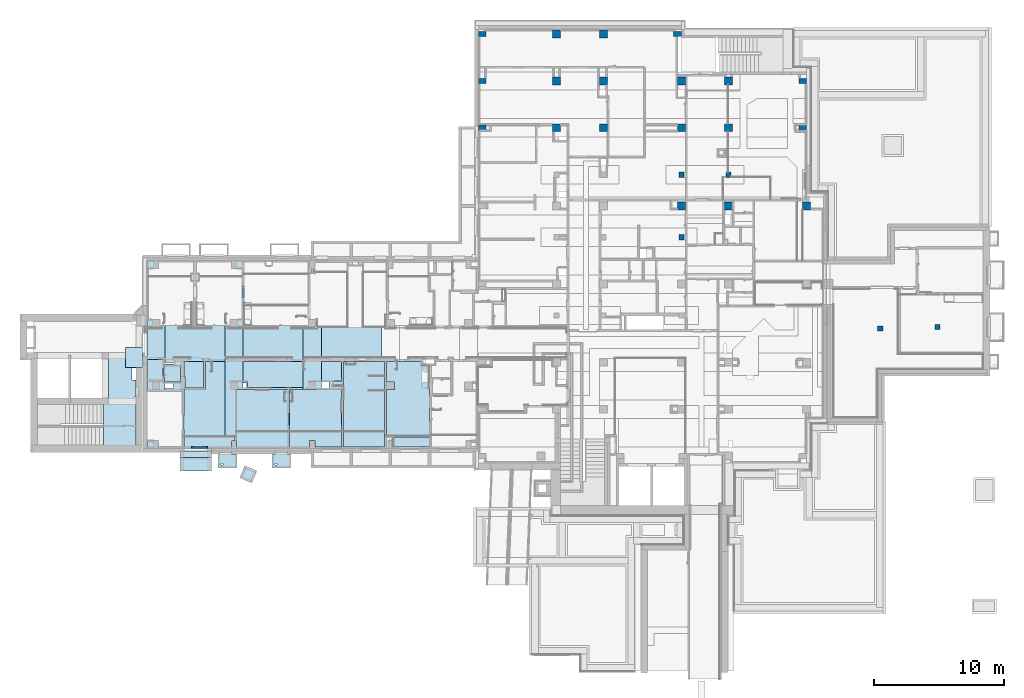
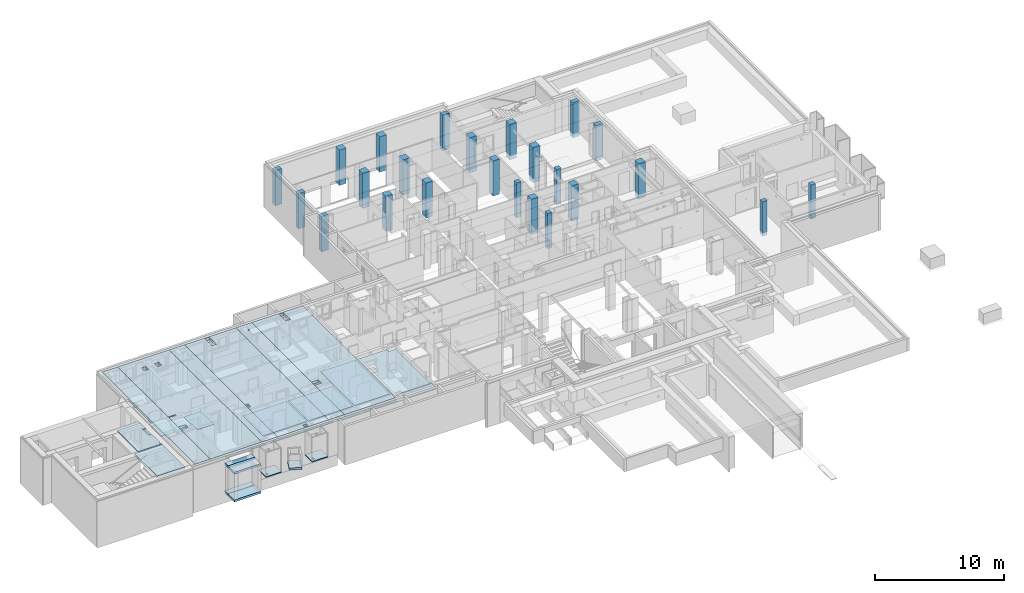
# One storey, part 4 of 84: 29 slabs, 24 columns, 1 beam, 12 openings.
"""IFC4 building model written with IfcOpenShell, lengths in metres."""

import ifcopenshell
import ifcopenshell.guid

model = None  # the IFC model being written
_history = None  # IfcOwnerHistory: only IFC2X3 demands one
_inside = {}  # id of a spatial element -> (the spatial element, [elements in it])
_under = {}  # id of a project, library or spatial element -> (it, [spatial elements below it])
_declared = {}  # id of a project -> (the project, [libraries it declares])
_typed = {}  # id of a type object -> (the type object, [elements of that type])
_made_of = {}  # id of a material, layer set ... -> (it, [elements and type objects made of it])


def new_model(schema):
    """Start an empty IFC model of exactly this schema.

    Asked for "IFC4X3", IfcOpenShell would pick the latest addendum, in which some entities
    have other attributes; the version numbers below select the first issue.
    IFC2X3 requires an IfcOwnerHistory on every rooted entity: one is made here for all.
    """
    global model, _history
    if schema == "IFC4X3":
        model = ifcopenshell.file(schema_version=(4, 3, 0, 0))
    else:
        model = ifcopenshell.file(schema=schema)
    _inside.clear()
    _under.clear()
    _declared.clear()
    _typed.clear()
    _made_of.clear()
    _history = None
    if model.schema == "IFC2X3":
        org = make("IfcOrganization", Name="unknown")
        user = make(
            "IfcPersonAndOrganization",
            ThePerson=make("IfcPerson", FamilyName="unknown"),
            TheOrganization=org,
        )
        app = make(
            "IfcApplication",
            ApplicationDeveloper=org,
            Version="unknown",
            ApplicationFullName="unknown",
            ApplicationIdentifier="unknown",
        )
        _history = make(
            "IfcOwnerHistory",
            OwningUser=user,
            OwningApplication=app,
            ChangeAction="ADDED",
            CreationDate=0,
        )
    return model


def make(cls, **values):
    """One entity of the class cls with the attributes given. An attribute that is None is left unset."""
    return model.create_entity(
        cls, **{name: value for name, value in values.items() if value is not None}
    )


def entity(cls, *values):
    """Any entity or typed value of the class cls, its attributes in the order of the schema. None: left unset."""
    e = model.create_entity(cls)
    for i, value in enumerate(values):
        if value is not None:
            e[i] = value
    return e


def rooted(cls, **values):
    """An entity with a GlobalId (a new one), such as an element, a storey or a relation."""
    return make(cls, GlobalId=ifcopenshell.guid.new(), OwnerHistory=_history, **values)


def si_unit(unit_type, name, prefix=None):
    """IfcSIUnit, for example si_unit("LENGTHUNIT", "METRE", prefix="MILLI")."""
    return make("IfcSIUnit", UnitType=unit_type, Prefix=prefix, Name=name)


def converted_unit(unit_type, name, factor, base, dimensions=None, offset=None):
    """IfcConversionBasedUnit, such as the inch: factor (a typed value) times the base unit."""
    return make(
        "IfcConversionBasedUnit"
        if offset is None
        else "IfcConversionBasedUnitWithOffset",
        ConversionOffset=offset,
        Dimensions=None
        if dimensions is None
        else entity("IfcDimensionalExponents", *dimensions),
        UnitType=unit_type,
        Name=name,
        ConversionFactor=make(
            "IfcMeasureWithUnit", ValueComponent=factor, UnitComponent=base
        ),
    )


def derived_unit(unit_type, elements):
    """IfcDerivedUnit: a product of units, each with its exponent."""
    return make(
        "IfcDerivedUnit",
        Elements=[
            make("IfcDerivedUnitElement", Unit=unit, Exponent=power)
            for unit, power in elements
        ],
        UnitType=unit_type,
    )


def assignment(units):
    """IfcUnitAssignment: the units of a project."""
    return None if units is None else make("IfcUnitAssignment", Units=units)


def point(xyz):
    """IfcCartesianPoint."""
    return None if xyz is None else make("IfcCartesianPoint", Coordinates=xyz)


def direction(xyz):
    """IfcDirection."""
    return None if xyz is None else make("IfcDirection", DirectionRatios=xyz)


def frame(location, z_axis=None, x_axis=None):
    """IfcAxis2Placement3D, a coordinate frame: its origin and axes. An axis left out is left unset."""
    return make(
        "IfcAxis2Placement3D",
        Location=point(location),
        Axis=direction(z_axis),
        RefDirection=direction(x_axis),
    )


def frame_2d(location, x_axis=None):
    """IfcAxis2Placement2D, a coordinate frame in the plane: its origin and x axis."""
    return make(
        "IfcAxis2Placement2D", Location=point(location), RefDirection=direction(x_axis)
    )


def origin():
    """The frame at (0, 0, 0) with its axes left unset."""
    return frame((0.0, 0.0, 0.0))


def origin_with_axes():
    """The frame at (0, 0, 0) with the z axis (0, 0, 1) and the x axis (1, 0, 0) written out."""
    return frame((0.0, 0.0, 0.0), z_axis=(0.0, 0.0, 1.0), x_axis=(1.0, 0.0, 0.0))


def place(relative_to, where):
    """IfcLocalPlacement: puts the frame where relative to a parent placement (None: the world)."""
    return make(
        "IfcLocalPlacement", PlacementRelTo=relative_to, RelativePlacement=where
    )


def context(
    kind, dimensions, precision=None, world=None, true_north=None, identifier=None
):
    """IfcGeometricRepresentationContext, for example the 3D "Model" context."""
    return make(
        "IfcGeometricRepresentationContext",
        ContextIdentifier=identifier,
        ContextType=kind,
        CoordinateSpaceDimension=dimensions,
        Precision=precision,
        WorldCoordinateSystem=world,
        TrueNorth=true_north,
    )


def subcontext(parent, identifier, kind, view, scale=None):
    """IfcGeometricRepresentationSubContext, for example "Body" below "Model"."""
    return make(
        "IfcGeometricRepresentationSubContext",
        ContextIdentifier=identifier,
        ContextType=kind,
        ParentContext=parent,
        TargetScale=scale,
        TargetView=view,
    )


def project(units=None, contexts=None):
    """IfcProject with its units and contexts."""
    return rooted(
        "IfcProject",
        Name="project",
        RepresentationContexts=contexts,
        UnitsInContext=assignment(units),
    )


def spatial(cls, under=None, at=None, **own):
    """A site, building, storey or space (cls), placed at a placement, below another one or the project."""
    s = rooted(cls, ObjectPlacement=at, **own)
    if under is not None:
        _under.setdefault(under.id(), (under, []))[1].append(s)
    return s


def polyline(points):
    """IfcPolyline through the points."""
    return make("IfcPolyline", Points=[point(p) for p in points])


def profile(cls, at=None, kind="AREA", **sizes):
    """A parametric profile (cls). Its sizes go by their IFC names, for example OverallWidth=200.0."""
    return make(cls, ProfileType=kind, Position=at, **sizes)


def rectangle(**sizes):
    """IfcRectangleProfileDef."""
    return profile("IfcRectangleProfileDef", **sizes)


def circle(**sizes):
    """IfcCircleProfileDef."""
    return profile("IfcCircleProfileDef", **sizes)


def outline(outer, holes=None, kind="AREA"):
    """IfcArbitraryClosedProfileDef: a profile drawn as a closed curve; with holes, ...WithVoids."""
    if holes is None:
        return make("IfcArbitraryClosedProfileDef", ProfileType=kind, OuterCurve=outer)
    return make(
        "IfcArbitraryProfileDefWithVoids",
        ProfileType=kind,
        OuterCurve=outer,
        InnerCurves=holes,
    )


def extrude(swept, where, along, depth):
    """IfcExtrudedAreaSolid: the profile swept, set in the frame where, extruded along a direction by depth."""
    return make(
        "IfcExtrudedAreaSolid",
        SweptArea=swept,
        Position=where,
        ExtrudedDirection=direction(along),
        Depth=depth,
    )


def shape(context_of_items, identifier, shape_type, items):
    """IfcShapeRepresentation: the items that make up one representation, for example the "Body"."""
    return make(
        "IfcShapeRepresentation",
        ContextOfItems=context_of_items,
        RepresentationIdentifier=identifier,
        RepresentationType=shape_type,
        Items=items,
    )


def material(Name=None, Category=None):
    """IfcMaterial."""
    return make("IfcMaterial", Name=Name, Category=Category)


def made_of(thing, what):
    """Note that an element or type object is made of a material, layer set ...; save() writes the relation."""
    if what is not None:
        _made_of.setdefault(what.id(), (what, []))[1].append(thing)
    return thing


def element(
    cls,
    number,
    at=None,
    inside=None,
    cuts=None,
    type_object=None,
    material=None,
    context=None,
    identifier="Body",
    shape_type=None,
    held_by="IfcProductDefinitionShape",
    body=None,
    shapes=None,
    **own,
):
    """One element of the class cls, such as IfcWall. Its Tag is "e" and its number.

    at: its placement. inside: the storey or other place that contains it. cuts: it is an
    opening in that element (IfcRelVoidsElement). A single representation is given by context,
    identifier, shape_type and body (its items); several are given by shapes. held_by: the class
    of the entity that holds the representations. save() writes the other relations.
    """
    e = rooted(cls, Tag="e%d" % number, ObjectPlacement=at, **own)
    if body is not None:
        shapes = [shape(context, identifier, shape_type, body)]
    if shapes is not None:
        e.Representation = make(held_by, Representations=shapes)
    if inside is not None:
        _inside.setdefault(inside.id(), (inside, []))[1].append(e)
    if cuts is not None:
        rooted(
            "IfcRelVoidsElement", RelatingBuildingElement=cuts, RelatedOpeningElement=e
        )
    if type_object is not None:
        _typed.setdefault(type_object.id(), (type_object, []))[1].append(e)
    return made_of(e, material)


def aggregate(whole, parts):
    """IfcRelAggregates: a whole, such as a stair, and the parts it consists of."""
    return rooted("IfcRelAggregates", RelatingObject=whole, RelatedObjects=parts)


def save(model, path):
    """Write the relations noted so far, then the file.

    IfcRelAggregates (storeys below a building ...), IfcRelContainedInSpatialStructure (elements
    in a storey), IfcRelDefinesByType, IfcRelAssociatesMaterial and IfcRelDeclares: one each for
    every whole, place, type object, material and project.
    """
    for whole, parts in _under.values():
        aggregate(whole, parts)
    for where, things in _inside.values():
        rooted(
            "IfcRelContainedInSpatialStructure",
            RelatedElements=things,
            RelatingStructure=where,
        )
    for kind, things in _typed.values():
        rooted("IfcRelDefinesByType", RelatedObjects=things, RelatingType=kind)
    for what, things in _made_of.values():
        rooted("IfcRelAssociatesMaterial", RelatedObjects=things, RelatingMaterial=what)
    for by, libraries in _declared.values():
        rooted("IfcRelDeclares", RelatingContext=by, RelatedDefinitions=libraries)
    model.write(path)


model = new_model("IFC4")

# Units and contexts
model_context = context("Model", 3, precision=1e-05, world=origin())
body_context = subcontext(model_context, "Body", "Model", "MODEL_VIEW")
ifc_project = project(units=[si_unit("LENGTHUNIT", "METRE"), si_unit("AREAUNIT", "SQUARE_METRE"), si_unit("VOLUMEUNIT", "CUBIC_METRE"), si_unit("MASSUNIT", "GRAM", prefix="KILO"), converted_unit("PLANEANGLEUNIT", "DEGREE", entity("IfcPlaneAngleMeasure", 0.0174532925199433), si_unit("PLANEANGLEUNIT", "RADIAN"), dimensions=[0, 0, 0, 0, 0, 0, 0]), derived_unit("THERMALTRANSMITTANCEUNIT", [(si_unit("POWERUNIT", "WATT"), 1), (si_unit("THERMODYNAMICTEMPERATUREUNIT", "KELVIN"), -1), (si_unit("LENGTHUNIT", "METRE"), -2)]), derived_unit("VOLUMETRICFLOWRATEUNIT", [(si_unit("LENGTHUNIT", "METRE"), 3), (converted_unit("TIMEUNIT", "hour", entity("IfcTimeMeasure", 3600.0), si_unit("TIMEUNIT", "SECOND"), dimensions=[0, 0, 1, 0, 0, 0, 0]), -1), (si_unit("LENGTHUNIT", "METRE"), -1)])], contexts=[model_context])

# Site, building, storey
site_placement = place(None, origin())
site = spatial("IfcSite", under=ifc_project, at=site_placement, Name="3. ASŘ", CompositionType="ELEMENT")
building_placement = place(site_placement, origin())
building = spatial("IfcBuilding", under=site, at=building_placement, Name="Pavilon C", CompositionType="ELEMENT")
storey_placement = place(building_placement, frame((0.0, 0.0, -3.3)))
storey = spatial("IfcBuildingStorey", under=building, at=storey_placement, Name="Půdorys 1.PP", CompositionType="ELEMENT", Elevation=-3.3)

# Columns
ifc_material_1 = material(Name="ZELEZOBETONOVÁ KCE")
column_1_placement = place(storey_placement, frame((44.15, 21.8, -0.4)))
element("IfcColumn", 1, at=column_1_placement, inside=storey, material=ifc_material_1, PredefinedType="COLUMN", context=body_context, shape_type="SweptSolid", body=[
    extrude(rectangle(XDim=0.4, YDim=0.4, at=frame_2d((-0.2, -0.2), x_axis=(-1.0, 0.0))), origin_with_axes(), (0.0, 0.0, 1.0), 3.35),
])
ifc_material_2 = material(Name="ZELEZOBETONOVÁ KCE")
column_2_placement = place(storey_placement, frame((44.25, 25.5, -0.4)))
element("IfcColumn", 2, at=column_2_placement, inside=storey, material=ifc_material_2, PredefinedType="COLUMN", context=body_context, shape_type="SweptSolid", body=[
    extrude(rectangle(XDim=0.6, YDim=0.6, at=frame_2d((-0.3, -0.3), x_axis=(-1.0, 0.0))), origin_with_axes(), (0.0, 0.0, 1.0), 3.35),
])
ifc_material_3 = material(Name="ZELEZOBETONOVÁ KCE")
column_3_placement = place(storey_placement, frame((34.65, 25.5, -0.4)))
element("IfcColumn", 3, at=column_3_placement, inside=storey, material=ifc_material_3, PredefinedType="COLUMN", context=body_context, shape_type="SweptSolid", body=[
    extrude(rectangle(XDim=0.6, YDim=0.6, at=frame_2d((-0.3, -0.3), x_axis=(-1.0, 0.0))), origin_with_axes(), (0.0, 0.0, 1.0), 3.35),
])
ifc_material_4 = material(Name="ZELEZOBETONOVÁ KCE")
column_4_placement = place(storey_placement, frame((31.05, 29.1, -0.4)))
element("IfcColumn", 4, at=column_4_placement, inside=storey, material=ifc_material_4, PredefinedType="COLUMN", context=body_context, shape_type="SweptSolid", body=[
    extrude(rectangle(XDim=0.6, YDim=0.6, at=frame_2d((-0.3, -0.3), x_axis=(-1.0, 0.0))), origin_with_axes(), (0.0, 0.0, 1.0), 3.35),
])
ifc_material_5 = material(Name="ZELEZOBETONOVÁ KCE")
column_5_placement = place(storey_placement, frame((34.65, 32.7, -0.4)))
element("IfcColumn", 5, at=column_5_placement, inside=storey, material=ifc_material_5, PredefinedType="COLUMN", context=body_context, shape_type="SweptSolid", body=[
    extrude(rectangle(XDim=0.6, YDim=0.6, at=frame_2d((-0.3, -0.3), x_axis=(-1.0, 0.0))), origin_with_axes(), (0.0, 0.0, 1.0), 3.35),
])
ifc_material_6 = material(Name="ZELEZOBETONOVÁ KCE")
column_6_placement = place(storey_placement, frame((44.25, 29.1, -0.4)))
element("IfcColumn", 6, at=column_6_placement, inside=storey, material=ifc_material_6, PredefinedType="COLUMN", context=body_context, shape_type="SweptSolid", body=[
    extrude(rectangle(XDim=0.6, YDim=0.6, at=frame_2d((-0.3, -0.3), x_axis=(-1.0, 0.0))), origin_with_axes(), (0.0, 0.0, 1.0), 3.35),
])
ifc_material_7 = material(Name="ZELEZOBETONOVÁ KCE")
column_7_placement = place(storey_placement, frame((40.35, 32.6, -0.4)))
element("IfcColumn", 7, at=column_7_placement, inside=storey, material=ifc_material_7, PredefinedType="COLUMN", context=body_context, shape_type="SweptSolid", body=[
    extrude(rectangle(XDim=0.599999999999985, YDim=0.4, at=frame_2d((-0.299999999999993, -0.2), x_axis=(-1.0, 0.0))), origin_with_axes(), (0.0, 0.0, 1.0), 3.35),
])
ifc_material_8 = material(Name="ZELEZOBETONOVÁ KCE")
column_8_placement = place(storey_placement, frame((44.25, 19.5, -0.4)))
element("IfcColumn", 8, at=column_8_placement, inside=storey, material=ifc_material_8, PredefinedType="COLUMN", context=body_context, shape_type="SweptSolid", body=[
    extrude(rectangle(XDim=0.6, YDim=0.6, at=frame_2d((-0.3, -0.3), x_axis=(-1.0, 0.0))), origin_with_axes(), (0.0, 0.0, 1.0), 3.35),
])
ifc_material_9 = material(Name="ZELEZOBETONOVÁ KCE")
column_9_placement = place(storey_placement, frame((40.55, 17.0, -0.4)))
element("IfcColumn", 9, at=column_9_placement, inside=storey, material=ifc_material_9, PredefinedType="COLUMN", context=body_context, shape_type="SweptSolid", body=[
    extrude(rectangle(XDim=0.4, YDim=0.4, at=frame_2d((-0.2, -0.2), x_axis=(-1.0, 0.0))), origin_with_axes(), (0.0, 0.0, 1.0), 3.35),
])
ifc_material_10 = material(Name="ZELEZOBETONOVÁ KCE")
column_10_placement = place(storey_placement, frame((40.65, 19.5, -0.4)))
element("IfcColumn", 10, at=column_10_placement, inside=storey, material=ifc_material_10, PredefinedType="COLUMN", context=body_context, shape_type="SweptSolid", body=[
    extrude(rectangle(XDim=0.6, YDim=0.6, at=frame_2d((-0.3, -0.3), x_axis=(-1.0, 0.0))), origin_with_axes(), (0.0, 0.0, 1.0), 3.35),
])
ifc_material_11 = material(Name="ZELEZOBETONOVÁ KCE")
column_11_placement = place(storey_placement, frame((40.65, 29.1, -0.4)))
element("IfcColumn", 11, at=column_11_placement, inside=storey, material=ifc_material_11, PredefinedType="COLUMN", context=body_context, shape_type="SweptSolid", body=[
    extrude(rectangle(XDim=0.6, YDim=0.6, at=frame_2d((-0.3, -0.3), x_axis=(-1.0, 0.0))), origin_with_axes(), (0.0, 0.0, 1.0), 3.35),
])
ifc_material_12 = material(Name="ZELEZOBETONOVÁ KCE")
column_12_placement = place(storey_placement, frame((40.55, 21.8, -0.4)))
element("IfcColumn", 12, at=column_12_placement, inside=storey, material=ifc_material_12, PredefinedType="COLUMN", context=body_context, shape_type="SweptSolid", body=[
    extrude(rectangle(XDim=0.4, YDim=0.4, at=frame_2d((-0.2, -0.2), x_axis=(-1.0, 0.0))), origin_with_axes(), (0.0, 0.0, 1.0), 3.35),
])
ifc_material_13 = material(Name="ZELEZOBETONOVÁ KCE")
column_13_placement = place(storey_placement, frame((50.25, 19.5, -0.4)))
element("IfcColumn", 13, at=column_13_placement, inside=storey, material=ifc_material_13, PredefinedType="COLUMN", context=body_context, shape_type="SweptSolid", body=[
    extrude(rectangle(XDim=0.6, YDim=0.6, at=frame_2d((-0.3, -0.3), x_axis=(-1.0, 0.0))), origin_with_axes(), (0.0, 0.0, 1.0), 3.35),
])
ifc_material_14 = material(Name="ZELEZOBETONOVÁ KCE")
column_14_placement = place(storey_placement, frame((40.65, 25.5, -0.4)))
element("IfcColumn", 14, at=column_14_placement, inside=storey, material=ifc_material_14, PredefinedType="COLUMN", context=body_context, shape_type="SweptSolid", body=[
    extrude(rectangle(XDim=0.6, YDim=0.6, at=frame_2d((-0.3, -0.3), x_axis=(-1.0, 0.0))), origin_with_axes(), (0.0, 0.0, 1.0), 3.35),
])
ifc_material_15 = material(Name="ZELEZOBETONOVÁ KCE")
column_15_placement = place(storey_placement, frame((34.65, 29.1, -0.4)))
element("IfcColumn", 15, at=column_15_placement, inside=storey, material=ifc_material_15, PredefinedType="COLUMN", context=body_context, shape_type="SweptSolid", body=[
    extrude(rectangle(XDim=0.6, YDim=0.6, at=frame_2d((-0.3, -0.3), x_axis=(-1.0, 0.0))), origin_with_axes(), (0.0, 0.0, 1.0), 3.35),
])
ifc_material_16 = material(Name="ZELEZOBETONOVÁ KCE")
column_16_placement = place(storey_placement, frame((31.05, 25.5, -0.4)))
element("IfcColumn", 16, at=column_16_placement, inside=storey, material=ifc_material_16, PredefinedType="COLUMN", context=body_context, shape_type="SweptSolid", body=[
    extrude(rectangle(XDim=0.6, YDim=0.6, at=frame_2d((-0.3, -0.3), x_axis=(-1.0, 0.0))), origin_with_axes(), (0.0, 0.0, 1.0), 3.35),
])
ifc_material_17 = material(Name="ZELEZOBETONOVÁ KCE")
column_17_placement = place(storey_placement, frame((25.35, 25.4, -0.4)))
element("IfcColumn", 17, at=column_17_placement, inside=storey, material=ifc_material_17, PredefinedType="COLUMN", context=body_context, shape_type="SweptSolid", body=[
    extrude(rectangle(XDim=0.599999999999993, YDim=0.4, at=frame_2d((-0.299999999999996, -0.2), x_axis=(-1.0, 0.0))), origin_with_axes(), (0.0, 0.0, 1.0), 3.35),
])
ifc_material_18 = material(Name="ZELEZOBETONOVÁ KCE")
column_18_placement = place(storey_placement, frame((25.35, 29.0, -0.4)))
element("IfcColumn", 18, at=column_18_placement, inside=storey, material=ifc_material_18, PredefinedType="COLUMN", context=body_context, shape_type="SweptSolid", body=[
    extrude(rectangle(XDim=0.599999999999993, YDim=0.4, at=frame_2d((-0.299999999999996, -0.2), x_axis=(-1.0, 0.0))), origin_with_axes(), (0.0, 0.0, 1.0), 3.35),
])
ifc_material_19 = material(Name="ZELEZOBETONOVÁ KCE")
column_19_placement = place(storey_placement, frame((25.35, 32.6, -0.4)))
element("IfcColumn", 19, at=column_19_placement, inside=storey, material=ifc_material_19, PredefinedType="COLUMN", context=body_context, shape_type="SweptSolid", body=[
    extrude(rectangle(XDim=0.599999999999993, YDim=0.4, at=frame_2d((-0.299999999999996, -0.2), x_axis=(-1.0, 0.0))), origin_with_axes(), (0.0, 0.0, 1.0), 3.35),
])
ifc_material_20 = material(Name="ZELEZOBETONOVÁ KCE")
column_20_placement = place(storey_placement, frame((31.05, 32.7, -0.4)))
element("IfcColumn", 20, at=column_20_placement, inside=storey, material=ifc_material_20, PredefinedType="COLUMN", context=body_context, shape_type="SweptSolid", body=[
    extrude(rectangle(XDim=0.6, YDim=0.6, at=frame_2d((-0.3, -0.3), x_axis=(-1.0, 0.0))), origin_with_axes(), (0.0, 0.0, 1.0), 3.35),
])
ifc_material_21 = material(Name="ZELEZOBETONOVÁ KCE")
column_21_placement = place(storey_placement, frame((49.95, 25.4, -0.4)))
element("IfcColumn", 21, at=column_21_placement, inside=storey, material=ifc_material_21, PredefinedType="COLUMN", context=body_context, shape_type="SweptSolid", body=[
    extrude(rectangle(XDim=0.6, YDim=0.4, at=frame_2d((-0.3, -0.2), x_axis=(-1.0, 0.0))), origin_with_axes(), (0.0, 0.0, 1.0), 3.35),
])
ifc_material_22 = material(Name="ZELEZOBETONOVÁ KCE")
column_22_placement = place(storey_placement, frame((49.95, 29.0, -0.4)))
element("IfcColumn", 22, at=column_22_placement, inside=storey, material=ifc_material_22, PredefinedType="COLUMN", context=body_context, shape_type="SweptSolid", body=[
    extrude(rectangle(XDim=0.6, YDim=0.4, at=frame_2d((-0.3, -0.2), x_axis=(-1.0, 0.0))), origin_with_axes(), (0.0, 0.0, 1.0), 3.35),
])
ifc_material_23 = material(Name="ZELEZOBETONOVÁ KCE")
column_23_placement = place(storey_placement, frame((55.4, 9.59999999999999, -0.3)))
element("IfcColumn", 23, at=column_23_placement, inside=storey, material=ifc_material_23, PredefinedType="COLUMN", context=body_context, shape_type="SweptSolid", body=[
    extrude(rectangle(XDim=0.4, YDim=0.4, at=frame_2d((0.2, 0.2), x_axis=(1.0, 0.0))), origin_with_axes(), (0.0, 0.0, 1.0), 3.25),
])
ifc_material_24 = material(Name="ZELEZOBETONOVÁ KCE")
column_24_placement = place(storey_placement, frame((59.8, 9.69999999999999, -0.3)))
element("IfcColumn", 24, at=column_24_placement, inside=storey, material=ifc_material_24, PredefinedType="COLUMN", context=body_context, shape_type="SweptSolid", body=[
    extrude(rectangle(XDim=0.4, YDim=0.4, at=frame_2d((0.2, 0.2), x_axis=(1.0, 0.0))), origin_with_axes(), (0.0, 0.0, 1.0), 3.25),
])

# Beam
ifc_material_25 = material(Name="PY1a - NEP 100-1250")
beam_placement = place(storey_placement, frame((2.725, 0.600000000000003, 2.02), z_axis=(0.0, 0.0, 1.0), x_axis=(1.0, -1.81898940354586e-16, 0.0)))
element("IfcBeam", 25, at=beam_placement, inside=storey, material=ifc_material_25, Name="%K0PY1a", PredefinedType="NOTDEFINED", context=body_context, shape_type="SweptSolid", body=[
    extrude(rectangle(XDim=0.1, YDim=0.249, at=frame_2d((0.05, 0.1245), x_axis=(1.0, 0.0))), frame((0.0, 0.0, 0.0), z_axis=(1.0, 0.0, 0.0), x_axis=(0.0, 1.0, 0.0)), (0.0, 0.0, 1.0), 1.25),
])

# Slabs
ifc_material_26 = material(Name="ZELEZOBETONOVÁ KCE")
slab_1_placement = place(storey_placement, frame((1.85, -1.125, 2.4)))
element("IfcSlab", 26, at=slab_1_placement, inside=storey, material=ifc_material_26, PredefinedType="FLOOR", context=body_context, shape_type="SweptSolid", body=[
    extrude(rectangle(XDim=1.0, YDim=2.4, at=frame_2d((1.2, -0.5), x_axis=(0.0, -1.0))), frame((0.0, 1.0, 0.0), z_axis=(0.0, 0.0, 1.0), x_axis=(1.0, 0.0, 0.0)), (0.0, 0.0, 1.0), 0.18),
])
ifc_material_27 = material(Name="ZELEZOBETONOVÁ KCE")
slab_2_placement = place(storey_placement, frame((1.85, -1.125, -0.23)))
element("IfcSlab", 27, at=slab_2_placement, inside=storey, material=ifc_material_27, PredefinedType="FLOOR", context=body_context, shape_type="SweptSolid", body=[
    extrude(rectangle(XDim=1.0, YDim=2.4, at=frame_2d((1.2, -0.5), x_axis=(0.0, -1.0))), frame((0.0, 1.0, 0.0), z_axis=(0.0, 0.0, 1.0), x_axis=(1.0, 0.0, 0.0)), (0.0, 0.0, 1.0), 0.18),
])
ifc_material_28 = material(Name="ZELEZOBETONOVÁ KCE")
slab_3_placement = place(storey_placement, frame((6.44426722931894, -2.05359455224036, 1.5)))
element("IfcSlab", 28, at=slab_3_placement, inside=storey, material=ifc_material_28, PredefinedType="FLOOR", context=body_context, shape_type="SweptSolid", body=[
    extrude(rectangle(XDim=0.999999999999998, YDim=1.0, at=frame_2d((0.271326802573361, -0.65297914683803), x_axis=(-0.381652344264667, -0.924305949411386))), frame((0.381652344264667, 1.30595829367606, 0.0), z_axis=(0.0, 0.0, 1.0), x_axis=(1.0, 0.0, 0.0)), (0.0, 0.0, 1.0), 0.2),
])
ifc_material_29 = material(Name="ZELEZOBETONOVÁ KCE")
slab_4_placement = place(storey_placement, frame((1.85, -0.124999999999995, -0.23)))
element("IfcSlab", 29, at=slab_4_placement, inside=storey, material=ifc_material_29, PredefinedType="FLOOR", context=body_context, shape_type="SweptSolid", body=[
    extrude(rectangle(XDim=0.525, YDim=2.4, at=frame_2d((1.2, -0.2625), x_axis=(0.0, -1.0))), frame((0.0, 0.525, 0.0), z_axis=(0.0, 0.0, 1.0), x_axis=(1.0, 0.0, 0.0)), (0.0, 0.0, 1.0), 0.18),
])
ifc_material_30 = material(Name="ZELEZOBETONOVÁ KCE")
slab_5_placement = place(storey_placement, frame((1.85, -0.124999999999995, 2.4)))
element("IfcSlab", 30, at=slab_5_placement, inside=storey, material=ifc_material_30, PredefinedType="FLOOR", context=body_context, shape_type="SweptSolid", body=[
    extrude(rectangle(XDim=0.525, YDim=2.4, at=frame_2d((1.2, -0.2625), x_axis=(0.0, -1.0))), frame((0.0, 0.525, 0.0), z_axis=(0.0, 0.0, 1.0), x_axis=(1.0, 0.0, 0.0)), (0.0, 0.0, 1.0), 0.18),
])
ifc_material_31 = material(Name="PZD")
slab_6_placement = place(storey_placement, frame((-4.0249, 0.700000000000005, 2.93)))
element("IfcSlab", 31, at=slab_6_placement, inside=storey, material=ifc_material_31, PredefinedType="FLOOR", context=body_context, shape_type="SweptSolid", body=[
    extrude(rectangle(XDim=2.4999, YDim=3.5, at=frame_2d((1.24995, 1.75), x_axis=(1.0, 0.0))), origin_with_axes(), (0.0, 0.0, 1.0), 0.25),
])

# Slab, openings
ifc_material_32 = material(Name="PZD")
slab_7_placement = place(storey_placement, frame((0.700000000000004, 0.600000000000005, 2.95)))
slab_7 = element("IfcSlab", 32, at=slab_7_placement, inside=storey, material=ifc_material_32, PredefinedType="FLOOR", context=body_context, shape_type="SweptSolid", body=[
    extrude(rectangle(XDim=14.4, YDim=4.60000000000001, at=frame_2d((2.3, -7.2), x_axis=(-1.01054966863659e-15, -1.0))), frame((1.45519152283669e-14, 14.4, 0.0), z_axis=(0.0, 0.0, 1.0), x_axis=(1.0, 0.0, 0.0)), (0.0, 0.0, 1.0), 0.25),
])
opening_1_placement = place(slab_7_placement, frame((1.45519152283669e-14, 4.6, 0.0)))
element("IfcOpeningElement", 33, at=opening_1_placement, cuts=slab_7, Name="Prostup deskou", ObjectType="Opening", context=body_context, shape_type="SweptSolid", body=[
    extrude(rectangle(XDim=0.4, YDim=0.65, at=frame_2d((0.0, 0.0), x_axis=(0.0, -1.0))), frame((0.325, 0.2, 0.0), z_axis=(0.0, 0.0, 1.0), x_axis=(1.0, 0.0, 0.0)), (0.0, 0.0, 1.0), 0.25),
])
opening_2_placement = place(slab_7_placement, frame((2.67500000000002, 12.905, 0.0)))
element("IfcOpeningElement", 34, at=opening_2_placement, cuts=slab_7, Name="Prostup deskou", ObjectType="Opening", context=body_context, shape_type="SweptSolid", body=[
    extrude(rectangle(XDim=0.45, YDim=0.4, at=frame_2d((0.0, 0.0), x_axis=(0.0, -1.0))), frame((0.2, 0.225, 0.0), z_axis=(0.0, 0.0, 1.0), x_axis=(1.0, 0.0, 0.0)), (0.0, 0.0, 1.0), 0.25),
])
opening_3_placement = place(slab_7_placement, frame((1.52500000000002, 12.905, 0.0)))
element("IfcOpeningElement", 35, at=opening_3_placement, cuts=slab_7, Name="Prostup deskou", ObjectType="Opening", context=body_context, shape_type="SweptSolid", body=[
    extrude(rectangle(XDim=0.45, YDim=0.4, at=frame_2d((0.0, 0.0), x_axis=(0.0, -1.0))), frame((0.2, 0.225, 0.0), z_axis=(0.0, 0.0, 1.0), x_axis=(1.0, 0.0, 0.0)), (0.0, 0.0, 1.0), 0.25),
])
opening_4_placement = place(slab_7_placement, frame((1.45519152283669e-14, 6.475, 0.0)))
element("IfcOpeningElement", 36, at=opening_4_placement, cuts=slab_7, Name="Prostup deskou", ObjectType="Opening", context=body_context, shape_type="SweptSolid", body=[
    extrude(rectangle(XDim=0.1, YDim=0.65, at=frame_2d((0.0, 1.81898940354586e-15), x_axis=(0.0, -1.0))), frame((0.325, 0.0499999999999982, 0.0), z_axis=(0.0, 0.0, 1.0), x_axis=(1.0, 0.0, 0.0)), (0.0, 0.0, 1.0), 0.25),
])

# Slab
ifc_material_33 = material(Name="RZT")
slab_8_placement = place(storey_placement, frame((-0.699999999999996, 0.600000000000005, 2.95)))
element("IfcSlab", 37, at=slab_8_placement, inside=storey, material=ifc_material_33, PredefinedType="FLOOR", context=body_context, shape_type="SweptSolid", body=[
    extrude(rectangle(XDim=1.4, YDim=14.4, at=frame_2d((0.700000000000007, 7.2), x_axis=(1.0, 0.0))), origin_with_axes(), (0.0, 0.0, 1.0), 0.25),
])

# Slab, openings
ifc_material_34 = material(Name="PZD")
slab_9_placement = place(storey_placement, frame((-3.62499999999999, 4.3, 3.08)))
slab_9 = element("IfcSlab", 38, at=slab_9_placement, inside=storey, material=ifc_material_34, PredefinedType="FLOOR", context=body_context, shape_type="SweptSolid", body=[
    extrude(rectangle(XDim=2.1, YDim=3.3, at=frame_2d((1.05, 1.65), x_axis=(1.0, 0.0))), origin_with_axes(), (0.0, 0.0, 1.0), 0.1),
])
opening_5_placement = place(slab_9_placement, frame((1.8, 1.55, 0.0)))
element("IfcOpeningElement", 39, at=opening_5_placement, cuts=slab_9, Name="Prostup deskou", ObjectType="Opening", context=body_context, shape_type="SweptSolid", body=[
    extrude(rectangle(XDim=0.9, YDim=0.3, at=frame_2d((0.0, -9.09494701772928e-16), x_axis=(0.0, -1.0))), frame((0.15, 0.450000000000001, 0.0), z_axis=(0.0, 0.0, 1.0), x_axis=(1.0, 0.0, 0.0)), (0.0, 0.0, 1.0), 0.1),
])
opening_6_placement = place(slab_9_placement, frame((2.0, 0.15, 0.0)))
element("IfcOpeningElement", 40, at=opening_6_placement, cuts=slab_9, Name="Prostup deskou", ObjectType="Opening", context=body_context, shape_type="SweptSolid", body=[
    extrude(rectangle(XDim=0.1, YDim=0.1, at=frame_2d((0.0, 0.0), x_axis=(0.0, -1.0))), frame((0.05, 0.05, 0.0), z_axis=(0.0, 0.0, 1.0), x_axis=(1.0, 0.0, 0.0)), (0.0, 0.0, 1.0), 0.1),
])

# Slab
ifc_material_35 = material(Name="RZT")
slab_10_placement = place(storey_placement, frame((5.30000000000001, 0.600000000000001, 2.95)))
element("IfcSlab", 41, at=slab_10_placement, inside=storey, material=ifc_material_35, PredefinedType="FLOOR", context=body_context, shape_type="SweptSolid", body=[
    extrude(rectangle(XDim=1.4, YDim=14.4, at=frame_2d((0.700000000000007, 7.2), x_axis=(1.0, -2.59855629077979e-15))), frame((0.0, 3.63797880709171e-15, 0.0), z_axis=(0.0, 0.0, 1.0), x_axis=(1.0, 0.0, 0.0)), (0.0, 0.0, 1.0), 0.25),
])

# Slab, openings
ifc_material_36 = material(Name="PZD")
slab_11_placement = place(storey_placement, frame((6.70000000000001, 0.600000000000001, 2.95)))
slab_11 = element("IfcSlab", 42, at=slab_11_placement, inside=storey, material=ifc_material_36, PredefinedType="FLOOR", context=body_context, shape_type="SweptSolid", body=[
    extrude(rectangle(XDim=14.4, YDim=4.60000000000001, at=frame_2d((2.3, -7.2), x_axis=(-1.01054966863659e-15, -1.0))), frame((1.45519152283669e-14, 14.4, 0.0), z_axis=(0.0, 0.0, 1.0), x_axis=(1.0, 0.0, 0.0)), (0.0, 0.0, 1.0), 0.25),
])
opening_7_placement = place(slab_11_placement, frame((2.18278728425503e-14, 4.6, 0.0)))
element("IfcOpeningElement", 43, at=opening_7_placement, cuts=slab_11, Name="Prostup deskou", ObjectType="Opening", context=body_context, shape_type="SweptSolid", body=[
    extrude(rectangle(XDim=0.399999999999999, YDim=0.25, at=frame_2d((1.81898940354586e-15, 4.54747350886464e-16), x_axis=(0.0, -1.0))), frame((0.124999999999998, 0.199999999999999, 0.0), z_axis=(0.0, 0.0, 1.0), x_axis=(1.0, 0.0, 0.0)), (0.0, 0.0, 1.0), 0.25),
])
opening_8_placement = place(slab_11_placement, frame((2.5, 0.100000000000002, 0.0)))
element("IfcOpeningElement", 44, at=opening_8_placement, cuts=slab_11, Name="Prostup deskou", ObjectType="Opening", context=body_context, shape_type="SweptSolid", body=[
    extrude(rectangle(XDim=0.3, YDim=0.3, at=frame_2d((0.0, -2.27373675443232e-16), x_axis=(0.0, -1.0))), frame((0.15, 0.15, 0.0), z_axis=(0.0, 0.0, 1.0), x_axis=(1.0, 0.0, 0.0)), (0.0, 0.0, 1.0), 0.25),
])
opening_9_placement = place(slab_11_placement, frame((1.775, 13.23, 0.0)))
element("IfcOpeningElement", 45, at=opening_9_placement, cuts=slab_11, Name="Prostup deskou", ObjectType="Opening", context=body_context, shape_type="SweptSolid", body=[
    extrude(rectangle(XDim=1.1, YDim=0.4, at=frame_2d((-1.81898940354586e-15, -1.81898940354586e-15), x_axis=(0.0, -1.0))), frame((0.200000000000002, 0.550000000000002, 0.0), z_axis=(0.0, 0.0, 1.0), x_axis=(1.0, 0.0, 0.0)), (0.0, 0.0, 1.0), 0.25),
])

ifc_material_37 = material(Name="PZD")
slab_12_placement = place(storey_placement, frame((12.7, 0.600000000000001, 2.95)))
slab_12 = element("IfcSlab", 46, at=slab_12_placement, inside=storey, material=ifc_material_37, PredefinedType="FLOOR", context=body_context, shape_type="SweptSolid", body=[
    extrude(rectangle(XDim=14.4, YDim=4.60000000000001, at=frame_2d((2.3, -7.2), x_axis=(-1.01054966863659e-15, -1.0))), frame((1.45519152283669e-14, 14.4, 0.0), z_axis=(0.0, 0.0, 1.0), x_axis=(1.0, 0.0, 0.0)), (0.0, 0.0, 1.0), 0.25),
])
opening_10_placement = place(slab_12_placement, frame((2.40000000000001, 13.275, 0.0)))
element("IfcOpeningElement", 47, at=opening_10_placement, cuts=slab_12, Name="Prostup deskou", ObjectType="Opening", context=body_context, shape_type="SweptSolid", body=[
    extrude(rectangle(XDim=1.0, YDim=0.4, at=frame_2d((-1.81898940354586e-15, 0.0), x_axis=(0.0, -1.0))), frame((0.200000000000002, 0.5, 0.0), z_axis=(0.0, 0.0, 1.0), x_axis=(1.0, 0.0, 0.0)), (0.0, 0.0, 1.0), 0.25),
])
opening_11_placement = place(slab_12_placement, frame((7.27595761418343e-15, 4.6, 0.0)))
element("IfcOpeningElement", 48, at=opening_11_placement, cuts=slab_12, Name="Prostup deskou", ObjectType="Opening", context=body_context, shape_type="SweptSolid", body=[
    extrude(rectangle(XDim=0.500000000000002, YDim=0.6, at=frame_2d((-1.81898940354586e-15, 0.0), x_axis=(0.0, -1.0))), frame((0.300000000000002, 0.250000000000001, 0.0), z_axis=(0.0, 0.0, 1.0), x_axis=(1.0, 0.0, 0.0)), (0.0, 0.0, 1.0), 0.25),
])

# Slab, opening
ifc_material_38 = material(Name="RZT")
slab_13_placement = place(storey_placement, frame((11.3, 0.600000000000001, 2.95)))
slab_13 = element("IfcSlab", 49, at=slab_13_placement, inside=storey, material=ifc_material_38, PredefinedType="FLOOR", context=body_context, shape_type="SweptSolid", body=[
    extrude(rectangle(XDim=1.4, YDim=14.4, at=frame_2d((0.700000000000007, 7.2), x_axis=(1.0, 0.0))), origin_with_axes(), (0.0, 0.0, 1.0), 0.25),
])
opening_12_placement = place(slab_13_placement, frame((0.625077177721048, 13.5750771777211, 0.0)))
element("IfcOpeningElement", 50, at=opening_12_placement, cuts=slab_13, Name="Prostup deskou", ObjectType="Opening", context=body_context, shape_type="SweptSolid", body=[
    extrude(circle(Radius=0.0750000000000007, at=frame_2d((1.81898940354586e-15, -3.63797880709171e-15), x_axis=(1.0, 0.0))), frame((0.0749228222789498, 0.0749228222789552, 0.0), z_axis=(0.0, 0.0, 1.0), x_axis=(1.0, 0.0, 0.0)), (0.0, 0.0, 1.0), 0.25),
])

# Slabs
ifc_material_39 = material(Name="ANGLICKÝ DVOREK SE DNEM POCHOZÍ")
slab_14_placement = place(storey_placement, frame((8.94500000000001, -0.904999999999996, 0.9)))
element("IfcSlab", 51, at=slab_14_placement, inside=storey, material=ifc_material_39, Name="DNO ANGLICKÉHO DVORKU", PredefinedType="FLOOR", context=body_context, shape_type="SweptSolid", body=[
    extrude(outline(polyline([(0.0, 1.08), (0.0, 0.0), (1.41, 0.0), (1.41, 1.08), (0.0, 1.08)]), holes=[polyline([(0.204999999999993, 0.354999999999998), (0.354999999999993, 0.354999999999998), (0.354999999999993, 0.204999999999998), (0.204999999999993, 0.204999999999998), (0.204999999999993, 0.354999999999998)])]), origin_with_axes(), (0.0, 0.0, 1.0), 0.1),
])
ifc_material_40 = material(Name="ANGLICKÝ DVOREK SE DNEM POCHOZÍ")
slab_15_placement = place(storey_placement, frame((4.795, -0.904999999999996, 0.9)))
element("IfcSlab", 52, at=slab_15_placement, inside=storey, material=ifc_material_40, Name="DNO ANGLICKÉHO DVORKU", PredefinedType="FLOOR", context=body_context, shape_type="SweptSolid", body=[
    extrude(outline(polyline([(0.0, 1.08), (0.0, 0.0), (1.41, 0.0), (1.41, 1.08), (0.0, 1.08)]), holes=[polyline([(0.354999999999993, 0.354999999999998), (0.354999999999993, 0.204999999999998), (0.204999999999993, 0.204999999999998), (0.204999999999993, 0.354999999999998), (0.354999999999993, 0.354999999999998)])]), origin_with_axes(), (0.0, 0.0, 1.0), 0.1),
])
ifc_material_41 = material(Name="Demontáž +montáž kazetového podh")
slab_16_placement = place(storey_placement, frame((-2.34999999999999, 6.79999999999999, 2.3)))
element("IfcSlab", 53, at=slab_16_placement, inside=storey, material=ifc_material_41, PredefinedType="FLOOR", context=body_context, shape_type="SweptSolid", body=[
    extrude(rectangle(XDim=1.55000000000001, YDim=1.325, at=frame_2d((0.662499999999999, -0.775000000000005), x_axis=(0.0, -1.0))), frame((0.0, 1.55000000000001, 0.0), z_axis=(0.0, 0.0, 1.0), x_axis=(1.0, 0.0, 0.0)), (0.0, 0.0, 1.0), 0.05),
])
ifc_material_42 = material(Name="Kazetový podhled bílý 0,6×0,6")
slab_17_placement = place(storey_placement, frame((-0.699999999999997, 5.85, 2.6)))
element("IfcSlab", 54, at=slab_17_placement, inside=storey, material=ifc_material_42, PredefinedType="FLOOR", context=body_context, shape_type="SweptSolid", body=[
    extrude(rectangle(XDim=1.245, YDim=1.55, at=frame_2d((0.6225, 0.775), x_axis=(1.0, 0.0))), origin_with_axes(), (0.0, 0.0, 1.0), 0.05),
])
ifc_material_43 = material(Name="Kazetový podhled bílý 0,6×0,6")
slab_18_placement = place(storey_placement, frame((0.645000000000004, 5.675, 2.6)))
element("IfcSlab", 55, at=slab_18_placement, inside=storey, material=ifc_material_43, PredefinedType="FLOOR", context=body_context, shape_type="SweptSolid", body=[
    extrude(rectangle(XDim=1.255, YDim=1.225, at=frame_2d((0.6275, 0.6125), x_axis=(1.0, 0.0))), origin_with_axes(), (0.0, 0.0, 1.0), 0.05),
])
ifc_material_44 = material(Name="Kazetový podhled bílý 0,6×0,6")
slab_19_placement = place(storey_placement, frame((2.15, 5.225, 2.6)))
element("IfcSlab", 56, at=slab_19_placement, inside=storey, material=ifc_material_44, PredefinedType="FLOOR", context=body_context, shape_type="SweptSolid", body=[
    extrude(outline(polyline([(1.52, 2.05), (0.0, 2.05), (0.0, 0.9), (0.1, 0.9), (0.1, 0.0), (1.52, 0.0), (1.52, 2.05)])), origin_with_axes(), (0.0, 0.0, 1.0), 0.05),
])
ifc_material_45 = material(Name="Kazetový podhled hyg. 0,6×0,6")
slab_20_placement = place(storey_placement, frame((17.7, 1.525, 2.6)))
element("IfcSlab", 57, at=slab_20_placement, inside=storey, material=ifc_material_45, PredefinedType="FLOOR", context=body_context, shape_type="SweptSolid", body=[
    extrude(outline(polyline([(0.575000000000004, 0.0), (3.3, 0.0), (3.3, 5.45), (2.65000000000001, 5.45), (2.65000000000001, 5.75), (0.0, 5.75), (0.0, 4.175), (0.600000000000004, 4.175), (0.600000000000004, 3.575), (0.0, 3.575), (0.0, 0.0), (0.575000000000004, 0.0)])), origin_with_axes(), (0.0, 0.0, 1.0), 0.05),
])
ifc_material_46 = material(Name="Kazetový podhled hyg. 0,6×0,6")
slab_21_placement = place(storey_placement, frame((6.2, 1.94, 2.6)))
element("IfcSlab", 58, at=slab_21_placement, inside=storey, material=ifc_material_46, PredefinedType="FLOOR", context=body_context, shape_type="SweptSolid", body=[
    extrude(rectangle(XDim=3.16, YDim=3.925, at=frame_2d((1.9625, -1.58), x_axis=(0.0, -1.0))), frame((0.0, 3.16, 0.0), z_axis=(0.0, 0.0, 1.0), x_axis=(1.0, 0.0, 0.0)), (0.0, 0.0, 1.0), 0.05),
])
ifc_material_47 = material(Name="Kazetový podhled hyg. 0,6×0,6")
slab_22_placement = place(storey_placement, frame((10.25, 1.94, 2.6)))
element("IfcSlab", 59, at=slab_22_placement, inside=storey, material=ifc_material_47, PredefinedType="FLOOR", context=body_context, shape_type="SweptSolid", body=[
    extrude(rectangle(XDim=3.16, YDim=4.0, at=frame_2d((2.0, -1.58), x_axis=(0.0, -1.0))), frame((0.0, 3.16, 0.0), z_axis=(0.0, 0.0, 1.0), x_axis=(1.0, 0.0, 0.0)), (0.0, 0.0, 1.0), 0.05),
])
ifc_material_48 = material(Name="Kazetový podhled hyg. 0,6×0,6")
slab_23_placement = place(storey_placement, frame((14.4, 1.94, 2.6)))
element("IfcSlab", 60, at=slab_23_placement, inside=storey, material=ifc_material_48, PredefinedType="FLOOR", context=body_context, shape_type="SweptSolid", body=[
    extrude(rectangle(XDim=3.15, YDim=5.335, at=frame_2d((1.575, 2.6675), x_axis=(1.0, 0.0))), origin_with_axes(), (0.0, 0.0, 1.0), 0.05),
])
ifc_material_49 = material(Name="Kazetový podhled bílý 0,6×0,6")
slab_24_placement = place(storey_placement, frame((2.15, 1.575, 2.6)))
element("IfcSlab", 61, at=slab_24_placement, inside=storey, material=ifc_material_49, PredefinedType="FLOOR", context=body_context, shape_type="SweptSolid", body=[
    extrude(outline(polyline([(3.925, 3.525), (3.55000000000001, 3.525), (3.55000000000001, 4.2), (4.87500000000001, 4.2), (4.87500000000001, 3.675), (9.55000000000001, 3.675), (9.55000000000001, 4.2), (12.1, 4.2), (12.1, 5.7), (1.645, 5.7), (1.645, 3.525), (0.0, 3.525), (4.54747350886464e-16, 0.0), (3.925, 0.0), (3.925, 3.525)])), origin_with_axes(), (0.0, 0.0, 1.0), 0.05),
])
ifc_material_50 = material(Name="Kazetový podhled bílý 0,6×0,6")
slab_25_placement = place(storey_placement, frame((2.15, 0.700000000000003, 2.7)))
element("IfcSlab", 62, at=slab_25_placement, inside=storey, material=ifc_material_50, PredefinedType="FLOOR", context=body_context, shape_type="SweptSolid", body=[
    extrude(outline(polyline([(3.65, 0.0), (3.65, 0.5), (3.925, 0.5), (3.925, 0.834999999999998), (0.0, 0.834999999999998), (0.0, 4.54747350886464e-16), (3.65, 0.0)])), origin_with_axes(), (0.0, 0.0, 1.0), 0.05),
])
ifc_material_51 = material(Name="Kazetový podhled hyg. 0,6×0,6")
slab_26_placement = place(storey_placement, frame((14.4, 0.700000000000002, 2.7)))
element("IfcSlab", 63, at=slab_26_placement, inside=storey, material=ifc_material_51, PredefinedType="FLOOR", context=body_context, shape_type="SweptSolid", body=[
    extrude(rectangle(XDim=3.15, YDim=1.2, at=frame_2d((-1.575, -0.6), x_axis=(-1.0, 0.0))), frame((3.15, 1.2, 0.0), z_axis=(0.0, 0.0, 1.0), x_axis=(1.0, 0.0, 0.0)), (0.0, 0.0, 1.0), 0.05),
])
ifc_material_52 = material(Name="Kazetový podhled hyg. 0,6×0,6")
slab_27_placement = place(storey_placement, frame((10.25, 0.700000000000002, 2.7)))
element("IfcSlab", 64, at=slab_27_placement, inside=storey, material=ifc_material_52, PredefinedType="FLOOR", context=body_context, shape_type="SweptSolid", body=[
    extrude(outline(polyline([(4.0, 0.0), (4.0, 1.2), (0.0, 1.2), (0.0, 0.0), (1.55, 0.0), (1.55, 0.5), (1.95, 0.500000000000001), (1.95, 0.0), (4.0, 0.0)])), origin_with_axes(), (0.0, 0.0, 1.0), 0.05),
])
ifc_material_53 = material(Name="Kazetový podhled hyg. 0,6×0,6")
slab_28_placement = place(storey_placement, frame((6.2, 0.700000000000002, 2.7)))
element("IfcSlab", 65, at=slab_28_placement, inside=storey, material=ifc_material_53, PredefinedType="FLOOR", context=body_context, shape_type="SweptSolid", body=[
    extrude(rectangle(XDim=1.2, YDim=3.925, at=frame_2d((-1.9625, 0.6), x_axis=(0.0, 1.0))), frame((3.925, 0.0, 0.0), z_axis=(0.0, 0.0, 1.0), x_axis=(1.0, 0.0, 0.0)), (0.0, 0.0, 1.0), 0.05),
])
ifc_material_54 = material(Name="Kazetový podhled hyg. 0,6×0,6")
slab_29_placement = place(storey_placement, frame((18.275, 0.7, 2.7)))
element("IfcSlab", 66, at=slab_29_placement, inside=storey, material=ifc_material_54, PredefinedType="FLOOR", context=body_context, shape_type="SweptSolid", body=[
    extrude(rectangle(XDim=0.784999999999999, YDim=2.725, at=frame_2d((1.3625, -0.392499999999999), x_axis=(0.0, -1.0))), frame((0.0, 0.784999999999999, 0.0), z_axis=(0.0, 0.0, 1.0), x_axis=(1.0, 0.0, 0.0)), (0.0, 0.0, 1.0), 0.05),
])

save(model, "model.ifc")
